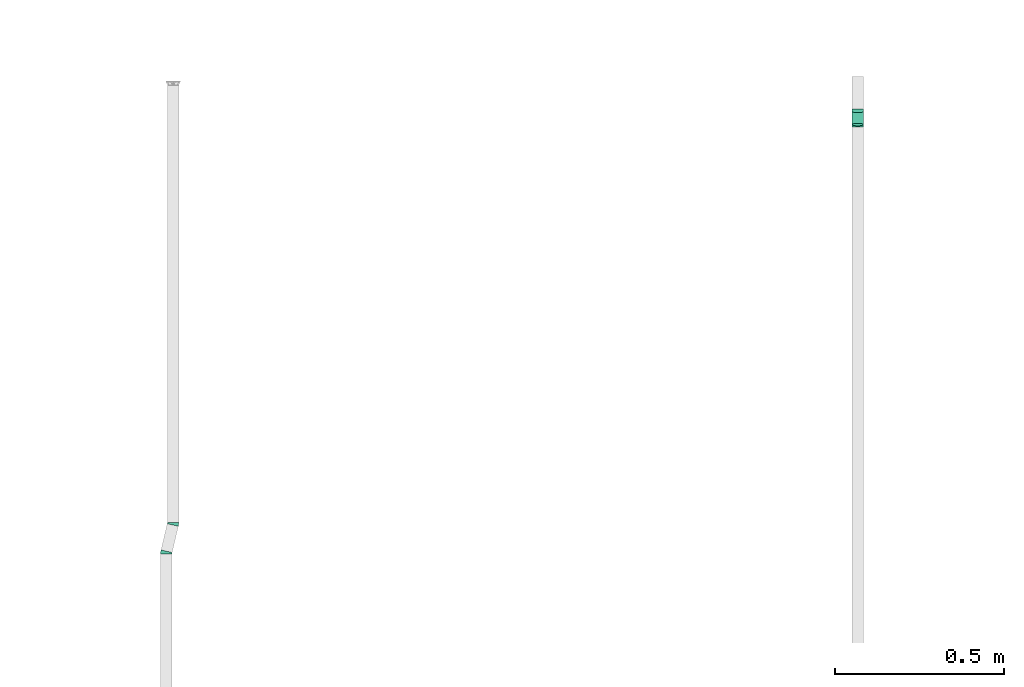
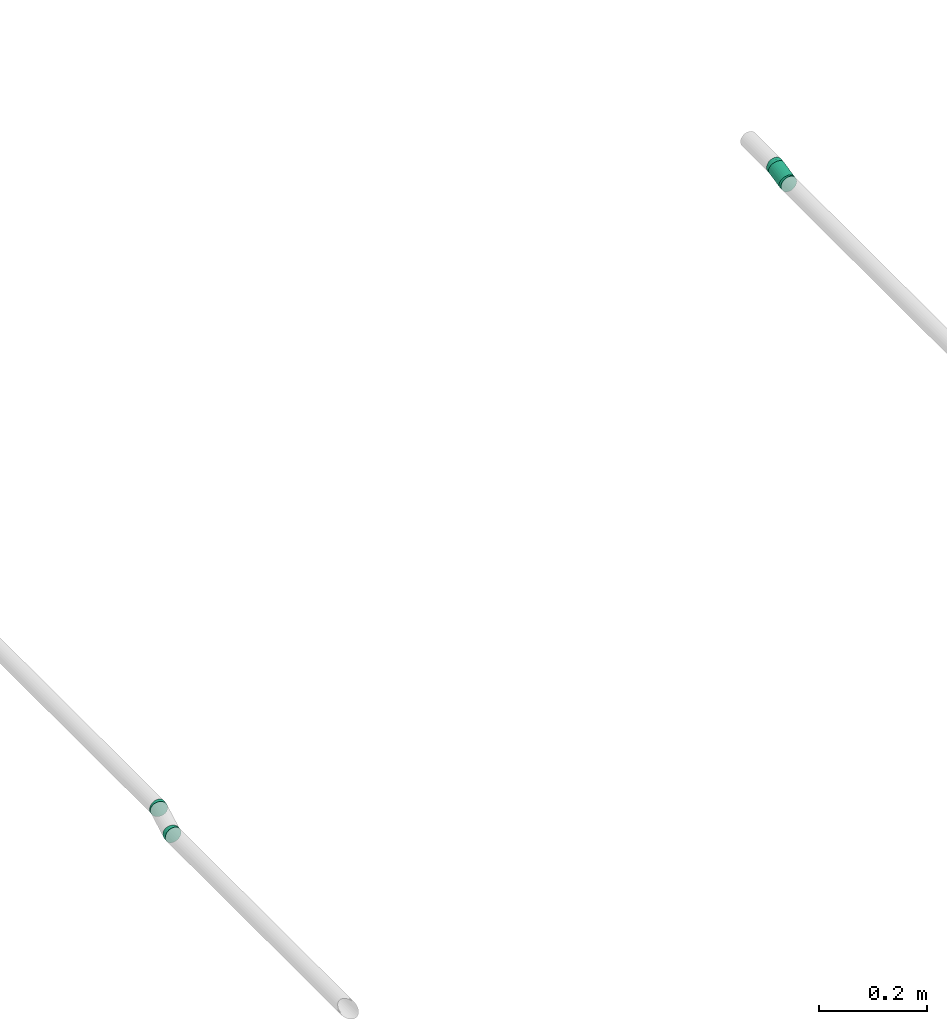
# One storey, part 21 of 32: 4 flow fittings, 1 flow segment.
"""IFC2X3 building model written with IfcOpenShell, lengths in millimetres."""

from ifc_helpers import new_model, entity, si_unit, converted_unit, derived_unit, direction, frame, origin_with_axes, origin_2d_with_axis, place, context, subcontext, project, spatial, hollow_circle, extrude, open_shell, surface_model, source, transform, mapped, type_object, element, save


model = new_model("IFC2X3")

# Units and contexts
model_context = context("Model", 3, precision=0.01, world=frame((0.0, 4.29681676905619e-09, 0.0)), true_north=direction((4.01073788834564e-13, 1.0)))
plan_context = context("Plan", 3, precision=0.01, world=frame((0.0, 4.29681676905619e-09, 0.0)), true_north=direction((4.01073788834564e-13, 1.0)))
body_context = subcontext(model_context, "Body", "Model", "MODEL_VIEW")
ifc_project = project(units=[converted_unit("PLANEANGLEUNIT", "DEGREE", entity("IfcPositiveLengthMeasure", 0.0174532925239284), si_unit("PLANEANGLEUNIT", "RADIAN"), dimensions=[0, 0, 0, 0, 0, 0, 0]), si_unit("AREAUNIT", "SQUARE_METRE"), si_unit("LENGTHUNIT", "METRE", prefix="MILLI"), si_unit("MASSUNIT", "GRAM", prefix="KILO"), si_unit("POWERUNIT", "WATT"), si_unit("PRESSUREUNIT", "PASCAL", prefix="KILO"), si_unit("FORCEUNIT", "NEWTON", prefix="KILO"), si_unit("ELECTRICVOLTAGEUNIT", "VOLT"), si_unit("ELECTRICCURRENTUNIT", "AMPERE"), si_unit("THERMODYNAMICTEMPERATUREUNIT", "DEGREE_CELSIUS"), si_unit("TIMEUNIT", "SECOND"), si_unit("VOLUMEUNIT", "CUBIC_METRE"), derived_unit("LINEARVELOCITYUNIT", [(si_unit("LENGTHUNIT", "METRE"), 1), (si_unit("TIMEUNIT", "SECOND"), -1)]), derived_unit("VOLUMETRICFLOWRATEUNIT", [(si_unit("VOLUMEUNIT", "CUBIC_METRE"), 1), (si_unit("TIMEUNIT", "SECOND"), -1)]), derived_unit("THERMALTRANSMITTANCEUNIT", [(si_unit("POWERUNIT", "WATT"), 1), (si_unit("THERMODYNAMICTEMPERATUREUNIT", "KELVIN"), -1), (si_unit("AREAUNIT", "SQUARE_METRE"), -1)]), derived_unit("SOUNDPRESSUREUNIT", [(si_unit("PRESSUREUNIT", "PASCAL"), 1)])], contexts=[model_context, plan_context])

# Site, building, storey
site_placement = place(None, frame((0.0, -4.29681676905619e-09, 0.0), z_axis=(0.0, 0.0, 1.0), x_axis=(1.0, 0.0, 0.0)))
site = spatial("IfcSite", under=ifc_project, at=site_placement, CompositionType="ELEMENT")
building_placement = place(site_placement, frame((0.0, 4.29681676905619e-09, 0.0), z_axis=(0.0, 0.0, 1.0), x_axis=(1.0, 0.0, 0.0)))
building = spatial("IfcBuilding", under=site, at=building_placement, Name="mc-building", CompositionType="ELEMENT")
storey_placement = place(building_placement, frame((0.0, 0.0, 205200.0), z_axis=(0.0, 0.0, 1.0), x_axis=(1.0, 0.0, 0.0)))
storey = spatial("IfcBuildingStorey", under=building, at=storey_placement, Name="Nivå D + 1,2 m", CompositionType="ELEMENT", Elevation=205200.0)

# Flow fittings
pipe_fitting_type = type_object("IfcPipeFittingType", Name="magi_pipe_fe_elbow_short_001", PredefinedType="BEND")
shared_shape_1 = source(origin_with_axes(), body_context, "Body", "SurfaceModel", [
    surface_model("IfcShellBasedSurfaceModel", [(-3.92291, 4.37404, -16.32415), (-3.92291, 0.0, -16.9), (-3.92291, 11.9501, -11.9501), (-3.92291, 8.45, -14.63583), (-3.92291, 16.32415, -4.37404), (-3.92291, 14.63583, -8.45), (-3.92291, -14.63583, -8.45), (-3.92291, -16.32415, -4.37404), (-3.92291, -8.45, 14.63583), (-3.92291, -11.9501, -11.9501), (-3.92291, -8.45, -14.63583), (-3.92291, -4.37404, -16.32415), (-3.92291, -16.9, 0.0), (-3.92291, -16.32415, 4.37404), (-3.92291, 11.9501, 11.9501), (-3.92291, 16.32415, 4.37404), (-3.92291, 14.63583, 8.45), (-3.92291, 4.37404, 16.32415), (-3.92291, 8.45, 14.63583), (-3.92291, -14.63583, 8.45), (-3.92291, -11.9501, 11.9501), (-3.92291, -4.37404, 16.32415), (-3.92291, 0.0, 16.9), (-3.92291, 16.9, 0.0), (2.8168, 5.15627, -16.32415), (7.1708, -13.34827, -8.45), (3.81862, 0.8985, -16.9), (1.08158, 12.53094, -11.9501), (1.88324, 9.12387, -14.63583), (0.46644, 15.14527, -8.45), (0.07975, 16.7887, -4.37404), (1.08158, 12.53094, 11.9501), (5.75401, -7.32688, -14.63583), (6.55567, -10.73394, -11.9501), (4.82045, -3.35927, -16.32415), (7.5575, -14.99171, -4.37404), (7.1708, -13.34827, 8.45), (7.68939, -15.55225, 0.0), (6.55567, -10.73394, 11.9501), (-0.05214, 17.34925, 0.0), (0.07975, 16.7887, 4.37404), (0.46644, 15.14527, 8.45), (1.88324, 9.12387, 14.63583), (2.8168, 5.15627, 16.32415), (3.81862, 0.8985, 16.9), (7.5575, -14.99171, 4.37404), (5.75401, -7.32688, 14.63583), (4.82045, -3.35927, 16.32415), (-1.97453, 17.01269, 0.0), (1.92222, -16.56194, 0.0)], [open_shell([[[0, 1, 2]], [[3, 0, 2]], [[4, 5, 2]], [[6, 2, 1]], [[2, 7, 8]], [[9, 6, 10]], [[1, 11, 10]], [[1, 10, 6]], [[6, 7, 2]], [[12, 13, 7]], [[4, 2, 14]], [[14, 15, 4]], [[16, 15, 14]], [[17, 18, 14]], [[2, 8, 14]], [[17, 14, 8]], [[19, 20, 13]], [[13, 20, 7]], [[21, 22, 8]], [[20, 8, 7]], [[8, 22, 17]], [[23, 4, 15]], [[24, 25, 26]], [[27, 24, 28]], [[27, 29, 30]], [[25, 24, 27]], [[31, 25, 27]], [[32, 25, 33]], [[25, 32, 34]], [[35, 36, 37]], [[25, 34, 26]], [[35, 25, 38]], [[39, 27, 30]], [[39, 40, 41]], [[39, 41, 31]], [[31, 42, 43]], [[31, 38, 25]], [[44, 31, 43]], [[37, 36, 45]], [[38, 36, 35]], [[46, 44, 47]], [[44, 46, 38]], [[31, 44, 38]], [[27, 39, 31]], [[36, 19, 13]], [[38, 20, 19]], [[44, 22, 21]], [[21, 8, 47]], [[17, 22, 43]], [[20, 46, 8]], [[16, 14, 41]], [[18, 31, 14]], [[48, 15, 40]], [[48, 23, 15]], [[40, 15, 16]], [[42, 18, 17]], [[13, 12, 49]], [[46, 47, 8]], [[20, 38, 46]], [[47, 44, 21]], [[37, 45, 49]], [[38, 19, 36]], [[36, 13, 45]], [[41, 40, 16]], [[39, 48, 40]], [[42, 17, 43]], [[18, 42, 31]], [[41, 14, 31]], [[43, 22, 44]], [[13, 49, 45]], [[26, 1, 0]], [[34, 11, 1]], [[29, 2, 5]], [[2, 27, 3]], [[24, 0, 3]], [[4, 30, 5]], [[49, 12, 7]], [[35, 49, 7]], [[33, 9, 10]], [[7, 6, 35]], [[9, 25, 6]], [[32, 10, 11]], [[4, 23, 48]], [[48, 39, 30]], [[30, 29, 5]], [[28, 3, 27]], [[24, 3, 28]], [[2, 29, 27]], [[24, 26, 0]], [[32, 11, 34]], [[33, 10, 32]], [[6, 25, 35]], [[35, 37, 49]], [[25, 9, 33]], [[26, 34, 1]], [[4, 48, 30]]])]),
])
for number, where, z_axis, x_axis, name in (
    (1, (343492.5, 466191.03146, 4444.43145999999), (0.0, 0.0, 1.0), (0.229039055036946, 0.973417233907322, 0.0), "magi_pipe_fe_elbow_short_001"),
    (2, (343472.5, 466106.03146, 4444.43145999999), (0.0, 0.0, 1.0), (-0.229039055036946, -0.973417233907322, 0.0), "magi_pipe_fe_elbow_short_001"),
):
    element("IfcFlowFitting", number, at=place(storey_placement, frame(where, z_axis=z_axis, x_axis=x_axis)), inside=storey, type_object=pipe_fitting_type, Name=name, context=body_context, shape_type="MappedRepresentation", body=[
        mapped(shared_shape_1, transform((0.0, 0.0, 0.0), scale=1.0)),
    ])
shared_shape_2 = source(origin_with_axes(), body_context, "Body", "SurfaceModel", [
    surface_model("IfcShellBasedSurfaceModel", [(-3.7132, 4.37404, -16.32415), (-3.7132, 0.0, -16.9), (-3.7132, 11.9501, -11.9501), (-3.7132, 8.45, -14.63583), (-3.7132, 16.32415, -4.37404), (-3.7132, 14.63583, -8.45), (-3.7132, -14.63583, -8.45), (-3.7132, -16.32415, -4.37404), (-3.7132, -8.45, 14.63583), (-3.7132, -11.9501, -11.9501), (-3.7132, -8.45, -14.63583), (-3.7132, -4.37404, -16.32415), (-3.7132, -16.9, 0.0), (-3.7132, -16.32415, 4.37404), (-3.7132, 11.9501, 11.9501), (-3.7132, 16.32415, 4.37404), (-3.7132, 14.63583, 8.45), (-3.7132, 4.37404, 16.32415), (-3.7132, 8.45, 14.63583), (-3.7132, -14.63583, 8.45), (-3.7132, -11.9501, 11.9501), (-3.7132, -4.37404, 16.32415), (-3.7132, 0.0, 16.9), (-3.7132, 16.9, 0.0), (1.03032, 12.47122, -11.9501), (3.62464, 0.80612, -16.9), (2.67506, 5.07584, -16.32415), (1.79018, 9.05459, -14.63583), (0.44726, 15.09289, -8.45), (0.08074, 16.74094, -4.37404), (6.80202, -13.48065, -8.45), (7.16855, -15.1287, -4.37404), (5.4591, -7.44235, -14.63583), (6.21896, -10.85898, -11.9501), (4.57423, -3.4636, -16.32415), (1.03032, 12.47122, 11.9501), (7.29356, -15.69082, 0.0), (-0.04428, 17.30306, 0.0), (0.08074, 16.74094, 4.37404), (0.44726, 15.09289, 8.45), (1.79018, 9.05459, 14.63583), (2.67506, 5.07584, 16.32415), (5.4591, -7.44235, 14.63583), (3.62464, 0.80612, 16.9), (6.80202, -13.48065, 8.45), (6.21896, -10.85898, 11.9501), (7.16855, -15.1287, 4.37404), (4.57423, -3.4636, 16.32415), (-1.8677, 17.00107, 0.0), (1.82329, -16.5968, 0.0)], [open_shell([[[0, 1, 2]], [[3, 0, 2]], [[4, 5, 2]], [[6, 2, 1]], [[2, 7, 8]], [[9, 6, 10]], [[1, 11, 10]], [[1, 10, 6]], [[6, 7, 2]], [[12, 13, 7]], [[4, 2, 14]], [[14, 15, 4]], [[16, 15, 14]], [[17, 18, 14]], [[2, 8, 14]], [[17, 14, 8]], [[19, 20, 13]], [[13, 20, 7]], [[21, 22, 8]], [[20, 8, 7]], [[8, 22, 17]], [[23, 4, 15]], [[24, 25, 26]], [[24, 26, 27]], [[24, 28, 29]], [[25, 24, 30]], [[31, 24, 29]], [[32, 30, 33]], [[32, 34, 25]], [[30, 32, 25]], [[24, 31, 30]], [[31, 35, 36]], [[31, 29, 37]], [[31, 38, 35]], [[35, 38, 39]], [[35, 40, 41]], [[36, 35, 42]], [[43, 35, 41]], [[44, 42, 45]], [[46, 36, 44]], [[42, 43, 47]], [[36, 42, 44]], [[35, 43, 42]], [[37, 38, 31]], [[20, 19, 44]], [[13, 46, 19]], [[43, 22, 21]], [[22, 41, 17]], [[8, 47, 21]], [[8, 20, 42]], [[16, 14, 39]], [[18, 35, 14]], [[48, 15, 38]], [[48, 23, 15]], [[38, 15, 16]], [[40, 18, 17]], [[13, 12, 49]], [[42, 47, 8]], [[20, 45, 42]], [[47, 43, 21]], [[44, 19, 46]], [[45, 20, 44]], [[46, 49, 36]], [[39, 38, 16]], [[37, 48, 38]], [[40, 17, 41]], [[18, 40, 35]], [[39, 14, 35]], [[41, 22, 43]], [[13, 49, 46]], [[0, 25, 1]], [[34, 11, 1]], [[28, 2, 5]], [[2, 24, 3]], [[26, 0, 3]], [[5, 4, 29]], [[49, 12, 7]], [[31, 49, 7]], [[33, 9, 10]], [[7, 6, 31]], [[9, 30, 6]], [[32, 10, 11]], [[4, 23, 48]], [[48, 37, 29]], [[29, 28, 5]], [[3, 24, 27]], [[3, 27, 26]], [[2, 28, 24]], [[26, 25, 0]], [[32, 11, 34]], [[33, 10, 32]], [[6, 30, 31]], [[31, 36, 49]], [[30, 9, 33]], [[25, 34, 1]], [[4, 48, 29]]])]),
])
for number, where, z_axis, x_axis, name in (
    (3, (345512.5, 467411.03146, 4444.43145999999), (1.0, 0.0, 0.0), (0.0, -1.0, 0.0), "magi_pipe_fe_elbow_short_001"),
    (4, (345512.5, 467365.00786, 4434.19579999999), (-1.0, 0.0, 0.0), (0.0, -0.976150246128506, -0.21709605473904), "magi_pipe_fe_elbow_short_001"),
):
    element("IfcFlowFitting", number, at=place(storey_placement, frame(where, z_axis=z_axis, x_axis=x_axis)), inside=storey, type_object=pipe_fitting_type, Name=name, context=body_context, shape_type="MappedRepresentation", body=[
        mapped(shared_shape_2, transform((0.0, 0.0, 0.0), scale=1.0)),
    ])

# Flow segment
pipe_segment_type = type_object("IfcPipeSegmentType", Name="Stålrør normaltykke", PredefinedType="RIGIDSEGMENT")
shared_shape_3 = source(origin_with_axes(), body_context, "Body", "SweptSolid", [
    extrude(hollow_circle(Radius=16.9, WallThickness=2.0, at=origin_2d_with_axis()), frame((0.0, 0.0, 0.0), z_axis=(1.0, 0.0, 0.0), x_axis=(0.0, 1.0, 0.0)), (0.0, 0.0, 1.0), 40.0),
])
flow_segment_placement = place(storey_placement, frame((345512.5, 467407.40682, 4443.62534), z_axis=(0.0, -0.21709605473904, 0.976150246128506), x_axis=(0.0, -0.976150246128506, -0.21709605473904)))
element("IfcFlowSegment", 5, at=flow_segment_placement, inside=storey, type_object=pipe_segment_type, Name="Stålrør normaltykke", context=body_context, shape_type="MappedRepresentation", body=[
    mapped(shared_shape_3, transform((0.0, 0.0, 0.0), scale=1.0)),
])

save(model, "model.ifc")
